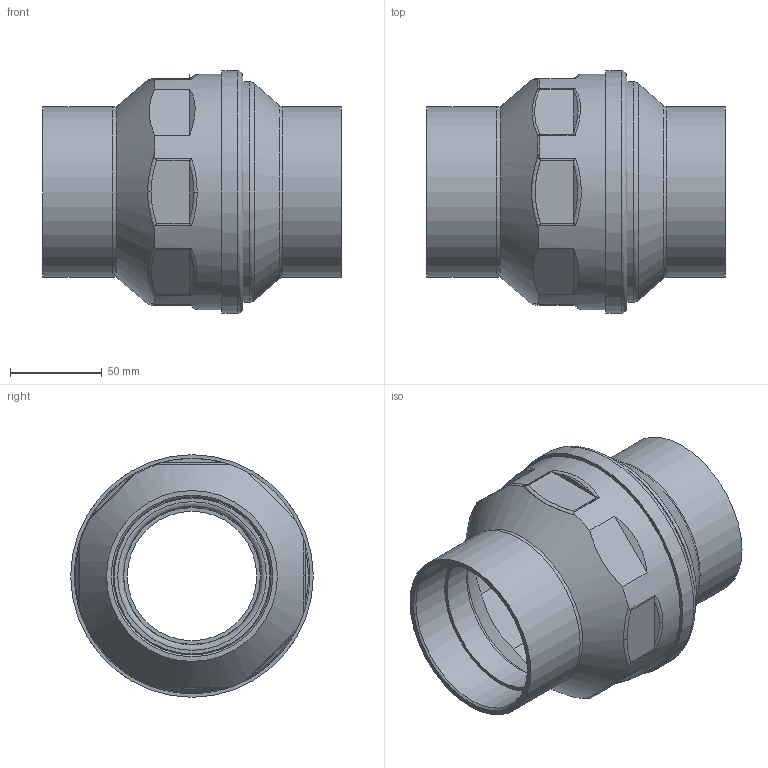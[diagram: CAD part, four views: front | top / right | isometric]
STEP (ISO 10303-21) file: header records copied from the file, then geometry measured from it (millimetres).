
FILE_DESCRIPTION(('STEP AP203'),'2;1');
FILE_NAME('IDRJA 3.stp','2016-06-29T11:35:37',(''),(''),'2015.2.119','THINKDESIGN','');
FILE_SCHEMA(('CONFIG_CONTROL_DESIGN'));
Length unit declared in the file: millimetre
Bounding box: 162.5 x 132 x 132 mm (x, y, z)
Volume: 215479.5 mm3; surface area: 164796.4 mm2
Topology: 6 solids, 6 shells, 138 faces, 398 edges, 273 vertices
Faces by surface type: bspline 53, plane 50, cylinder 35
Full cylindrical faces by diameter (mm): 70.4 x1, 74.4 x1, 80.9 x1, 84.5 x1, 85 x1, 85.9 x2, 87 x1, 87.884 x1, 88.2 x1, 89 x1, 93 x3, 116 x1, 120 x1, 122 x1, 128 x2, 132 x1
Entity records: 12330 total; most frequent: CARTESIAN_POINT 8797, ORIENTED_EDGE 732, DIRECTION 622, EDGE_CURVE 366, AXIS2_PLACEMENT_3D 261, VERTEX_POINT 249, CIRCLE 166, EDGE_LOOP 149
